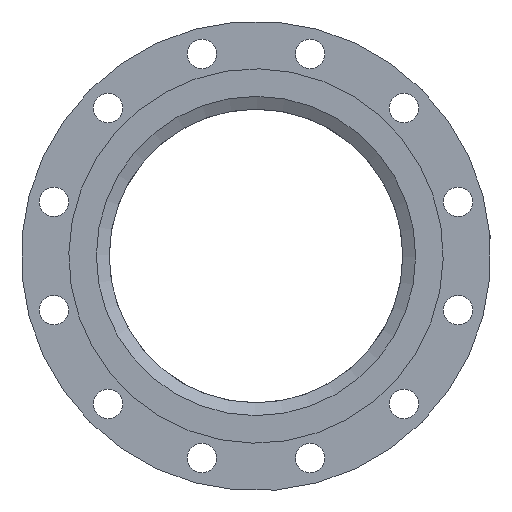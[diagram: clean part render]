
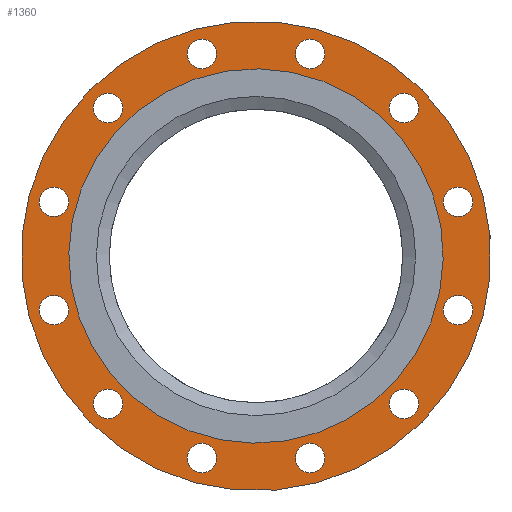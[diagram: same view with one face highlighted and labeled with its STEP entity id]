
A CAD part, front view. The second image highlights one B-rep face of the part: STEP entity #1360.
In plain terms, the highlighted planar face has unit normal (0, -1, 0).
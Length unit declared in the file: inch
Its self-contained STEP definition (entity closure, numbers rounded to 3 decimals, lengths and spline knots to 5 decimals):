
#46=PLANE('',#1494);
#120=FACE_BOUND('',#389,.T.);
#121=FACE_BOUND('',#390,.T.);
#122=FACE_BOUND('',#391,.T.);
#123=FACE_BOUND('',#392,.T.);
#124=FACE_BOUND('',#393,.T.);
#125=FACE_BOUND('',#394,.T.);
#126=FACE_BOUND('',#395,.T.);
#127=FACE_BOUND('',#396,.T.);
#128=FACE_BOUND('',#397,.T.);
#129=FACE_BOUND('',#398,.T.);
#130=FACE_BOUND('',#399,.T.);
#131=FACE_BOUND('',#400,.T.);
#132=FACE_BOUND('',#401,.T.);
#245=FACE_OUTER_BOUND('',#388,.T.);
#388=EDGE_LOOP('',(#1013));
#389=EDGE_LOOP('',(#1014));
#390=EDGE_LOOP('',(#1015));
#391=EDGE_LOOP('',(#1016));
#392=EDGE_LOOP('',(#1017));
#393=EDGE_LOOP('',(#1018));
#394=EDGE_LOOP('',(#1019));
#395=EDGE_LOOP('',(#1020));
#396=EDGE_LOOP('',(#1021));
#397=EDGE_LOOP('',(#1022));
#398=EDGE_LOOP('',(#1023));
#399=EDGE_LOOP('',(#1024));
#400=EDGE_LOOP('',(#1025));
#401=EDGE_LOOP('',(#1026));
#609=CIRCLE('',#1495,8.);
#610=CIRCLE('',#1496,0.5);
#611=CIRCLE('',#1497,0.5);
#612=CIRCLE('',#1498,0.5);
#613=CIRCLE('',#1499,0.5);
#614=CIRCLE('',#1500,0.5);
#615=CIRCLE('',#1501,0.5);
#616=CIRCLE('',#1502,0.5);
#617=CIRCLE('',#1503,0.5);
#618=CIRCLE('',#1504,0.5);
#619=CIRCLE('',#1505,0.5);
#620=CIRCLE('',#1506,0.5);
#621=CIRCLE('',#1507,0.5);
#622=CIRCLE('',#1508,6.375);
#734=VERTEX_POINT('',#2207);
#735=VERTEX_POINT('',#2209);
#736=VERTEX_POINT('',#2211);
#737=VERTEX_POINT('',#2213);
#738=VERTEX_POINT('',#2215);
#739=VERTEX_POINT('',#2217);
#740=VERTEX_POINT('',#2219);
#741=VERTEX_POINT('',#2221);
#742=VERTEX_POINT('',#2223);
#743=VERTEX_POINT('',#2225);
#744=VERTEX_POINT('',#2227);
#745=VERTEX_POINT('',#2229);
#746=VERTEX_POINT('',#2231);
#747=VERTEX_POINT('',#2233);
#859=EDGE_CURVE('',#734,#734,#609,.T.);
#860=EDGE_CURVE('',#735,#735,#610,.T.);
#861=EDGE_CURVE('',#736,#736,#611,.T.);
#862=EDGE_CURVE('',#737,#737,#612,.T.);
#863=EDGE_CURVE('',#738,#738,#613,.T.);
#864=EDGE_CURVE('',#739,#739,#614,.T.);
#865=EDGE_CURVE('',#740,#740,#615,.T.);
#866=EDGE_CURVE('',#741,#741,#616,.T.);
#867=EDGE_CURVE('',#742,#742,#617,.T.);
#868=EDGE_CURVE('',#743,#743,#618,.T.);
#869=EDGE_CURVE('',#744,#744,#619,.T.);
#870=EDGE_CURVE('',#745,#745,#620,.T.);
#871=EDGE_CURVE('',#746,#746,#621,.T.);
#872=EDGE_CURVE('',#747,#747,#622,.T.);
#1013=ORIENTED_EDGE('',*,*,#859,.T.);
#1014=ORIENTED_EDGE('',*,*,#860,.T.);
#1015=ORIENTED_EDGE('',*,*,#861,.T.);
#1016=ORIENTED_EDGE('',*,*,#862,.T.);
#1017=ORIENTED_EDGE('',*,*,#863,.T.);
#1018=ORIENTED_EDGE('',*,*,#864,.T.);
#1019=ORIENTED_EDGE('',*,*,#865,.T.);
#1020=ORIENTED_EDGE('',*,*,#866,.T.);
#1021=ORIENTED_EDGE('',*,*,#867,.T.);
#1022=ORIENTED_EDGE('',*,*,#868,.T.);
#1023=ORIENTED_EDGE('',*,*,#869,.T.);
#1024=ORIENTED_EDGE('',*,*,#870,.T.);
#1025=ORIENTED_EDGE('',*,*,#871,.T.);
#1026=ORIENTED_EDGE('',*,*,#872,.F.);
#1360=ADVANCED_FACE('',(#245,#120,#121,#122,#123,#124,#125,#126,#127,#128,
#129,#130,#131,#132),#46,.T.);
#1494=AXIS2_PLACEMENT_3D('',#2206,#1771,#1772);
#1495=AXIS2_PLACEMENT_3D('',#2208,#1773,#1774);
#1496=AXIS2_PLACEMENT_3D('',#2210,#1775,#1776);
#1497=AXIS2_PLACEMENT_3D('',#2212,#1777,#1778);
#1498=AXIS2_PLACEMENT_3D('',#2214,#1779,#1780);
#1499=AXIS2_PLACEMENT_3D('',#2216,#1781,#1782);
#1500=AXIS2_PLACEMENT_3D('',#2218,#1783,#1784);
#1501=AXIS2_PLACEMENT_3D('',#2220,#1785,#1786);
#1502=AXIS2_PLACEMENT_3D('',#2222,#1787,#1788);
#1503=AXIS2_PLACEMENT_3D('',#2224,#1789,#1790);
#1504=AXIS2_PLACEMENT_3D('',#2226,#1791,#1792);
#1505=AXIS2_PLACEMENT_3D('',#2228,#1793,#1794);
#1506=AXIS2_PLACEMENT_3D('',#2230,#1795,#1796);
#1507=AXIS2_PLACEMENT_3D('',#2232,#1797,#1798);
#1508=AXIS2_PLACEMENT_3D('',#2234,#1799,#1800);
#1771=DIRECTION('center_axis',(0.,-1.,0.));
#1772=DIRECTION('ref_axis',(-0.966,0.,0.259));
#1773=DIRECTION('center_axis',(0.,-1.,0.));
#1774=DIRECTION('ref_axis',(-0.966,0.,0.259));
#1775=DIRECTION('center_axis',(0.,1.,0.));
#1776=DIRECTION('ref_axis',(-0.966,0.,-0.259));
#1777=DIRECTION('center_axis',(0.,1.,0.));
#1778=DIRECTION('ref_axis',(-0.707,0.,-0.707));
#1779=DIRECTION('center_axis',(0.,1.,0.));
#1780=DIRECTION('ref_axis',(-0.259,0.,-0.966));
#1781=DIRECTION('center_axis',(0.,1.,0.));
#1782=DIRECTION('ref_axis',(0.259,0.,-0.966));
#1783=DIRECTION('center_axis',(0.,1.,0.));
#1784=DIRECTION('ref_axis',(0.707,0.,-0.707));
#1785=DIRECTION('center_axis',(0.,1.,0.));
#1786=DIRECTION('ref_axis',(0.966,0.,-0.259));
#1787=DIRECTION('center_axis',(0.,1.,0.));
#1788=DIRECTION('ref_axis',(0.966,0.,0.259));
#1789=DIRECTION('center_axis',(0.,1.,0.));
#1790=DIRECTION('ref_axis',(0.707,0.,0.707));
#1791=DIRECTION('center_axis',(0.,1.,0.));
#1792=DIRECTION('ref_axis',(0.259,0.,0.966));
#1793=DIRECTION('center_axis',(0.,1.,0.));
#1794=DIRECTION('ref_axis',(-0.259,0.,0.966));
#1795=DIRECTION('center_axis',(0.,1.,0.));
#1796=DIRECTION('ref_axis',(-0.707,0.,0.707));
#1797=DIRECTION('center_axis',(0.,1.,0.));
#1798=DIRECTION('ref_axis',(-0.966,0.,0.259));
#1799=DIRECTION('center_axis',(0.,-1.,0.));
#1800=DIRECTION('ref_axis',(-0.857,0.,0.515));
#2206=CARTESIAN_POINT('Origin',(0.,0.5,
0.));
#2207=CARTESIAN_POINT('',(7.72741,0.5,-2.07055));
#2208=CARTESIAN_POINT('Origin',(0.,0.5,
0.));
#2209=CARTESIAN_POINT('',(1.36112,0.5,-7.01163));
#2210=CARTESIAN_POINT('Origin',(1.84409,0.5,-6.88222));
#2211=CARTESIAN_POINT('',(4.68458,0.5,-5.39169));
#2212=CARTESIAN_POINT('Origin',(5.03814,0.5,-5.03814));
#2213=CARTESIAN_POINT('',(6.75281,0.5,-2.32705));
#2214=CARTESIAN_POINT('Origin',(6.88222,0.5,-1.84409));
#2215=CARTESIAN_POINT('',(7.01163,0.5,1.36112));
#2216=CARTESIAN_POINT('Origin',(6.88222,0.5,1.84409));
#2217=CARTESIAN_POINT('',(5.39169,0.5,4.68458));
#2218=CARTESIAN_POINT('Origin',(5.03814,0.5,5.03814));
#2219=CARTESIAN_POINT('',(2.32705,0.5,6.75281));
#2220=CARTESIAN_POINT('Origin',(1.84409,0.5,6.88222));
#2221=CARTESIAN_POINT('',(-1.36112,0.5,7.01163));
#2222=CARTESIAN_POINT('Origin',(-1.84409,0.5,6.88222));
#2223=CARTESIAN_POINT('',(-4.68458,0.5,5.39169));
#2224=CARTESIAN_POINT('Origin',(-5.03814,0.5,5.03814));
#2225=CARTESIAN_POINT('',(-6.75281,0.5,2.32705));
#2226=CARTESIAN_POINT('Origin',(-6.88222,0.5,1.84409));
#2227=CARTESIAN_POINT('',(-7.01163,0.5,-1.36112));
#2228=CARTESIAN_POINT('Origin',(-6.88222,0.5,-1.84409));
#2229=CARTESIAN_POINT('',(-5.39169,0.5,-4.68458));
#2230=CARTESIAN_POINT('Origin',(-5.03814,0.5,-5.03814));
#2231=CARTESIAN_POINT('',(-2.32705,0.5,-6.75281));
#2232=CARTESIAN_POINT('Origin',(-1.84409,0.5,-6.88222));
#2233=CARTESIAN_POINT('',(5.46614,0.5,-3.28053));
#2234=CARTESIAN_POINT('Origin',(0.,0.5,0.));
